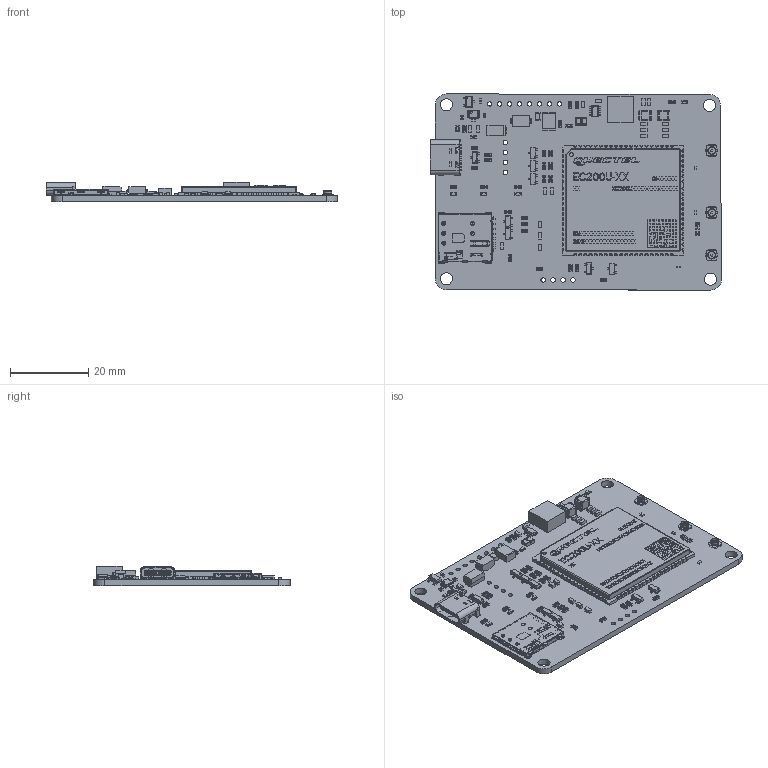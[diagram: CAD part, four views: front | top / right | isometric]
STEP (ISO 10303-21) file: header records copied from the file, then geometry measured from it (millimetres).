
FILE_DESCRIPTION(('Open CASCADE Model'),'2;1');
FILE_NAME('Open CASCADE Shape Model','2024-09-07T23:47:46',('Author'),( 'Open CASCADE'),'Open CASCADE STEP processor 6.8','Open CASCADE 6.8' ,'Unknown');
FILE_SCHEMA(('AUTOMOTIVE_DESIGN { 1 0 10303 214 1 1 1 1 }'));
Length unit declared in the file: millimetre
Products named in the file (179): PCB; Board; Open CASCADE STEP translator 6.8 1.1.1; D11; 6850220368; Body; FilletPin1; FilletPin2; U4; 6850217888; PinsArrayL; FilletPinR; C24; 6850220608; C17; R33; 6850223488; term1; term2; body; U3; 6197504752; BODY-VSSOP; LEAD-VSSOP; C36; U1; 6197504432; EC200-CN_PCB_1; EC200X-CN_COVER_1; R23; User_Library-RES_1609-0603; C34; 6142683680; Extruded; Q1; 6062692032; L2; 6731344576; F2; 6850219008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
Assembly tree (243 placements, depth 4):
  PCB
    Board
      Open CASCADE STEP translator 6.8 1.1.1
    D11
      6850220368
        Body
        FilletPin1
        FilletPin2
    U4
      6850217888
        Body
        PinsArrayL
        FilletPinR
    C24
      6850220608
    C17
      6850220608
    R33
      6850223488
        term1
        term2
        body
    U3
      6197504752
        BODY-VSSOP
        LEAD-VSSOP  x8
    C36
      6850220608
    U1
      6197504432
        EC200-CN_PCB_1
        EC200X-CN_COVER_1
    R23
      User_Library-RES_1609-0603
    C34
      6142683680
        Extruded
    Q1
      6062692032
        Body
        PinsArrayL
        FilletPinR
    L2
      6731344576
        Extruded
    F2
      6850219008
        term1
        term2
        body
    F1
      6850219968
        term1
        term2
        body
    X5
      6850222448
        SIM8066-6-1-14-01-A_PART2
        SIM8066-6-1-14-01-A_PART1
    R14
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Bounding box: 74.36 x 50.11 x 5.1 mm (x, y, z)
Volume: 7110.4 mm3; surface area: 15061.6 mm2
Topology: 321 solids, 1687 shells, 10843 faces, 33074 edges, 24338 vertices
Faces by surface type: plane 7707, cylinder 1697, bspline 1240, sphere 131, cone 35, extrusion 33
Full cylindrical faces by diameter (mm): 0.163 x8, 0.2 x1, 0.206 x1, 0.3 x2, 0.508 x3, 0.6 x4, 0.75 x4, 1 x16, 1.1 x8, 1.15 x8, 1.5 x6, 1.803 x3, 1.905 x3, 2.007 x6, 3.1 x4
Entity records: 300239 total; most frequent: CARTESIAN_POINT 70337, DIRECTION 39508, ORIENTED_EDGE 38997, EDGE_CURVE 24010, VERTEX_POINT 18474, VECTOR 17764, LINE 17731, AXIS2_PLACEMENT_3D 10872
